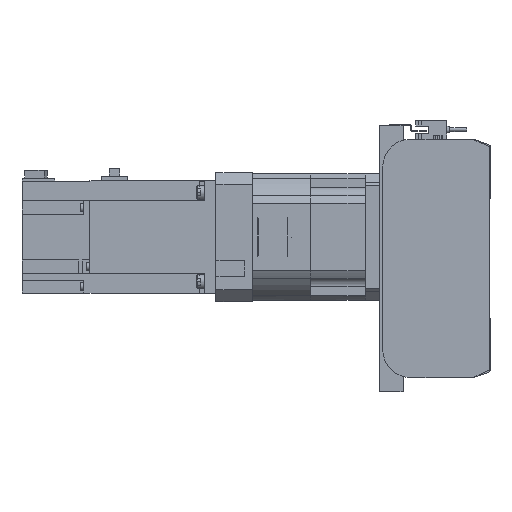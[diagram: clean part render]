
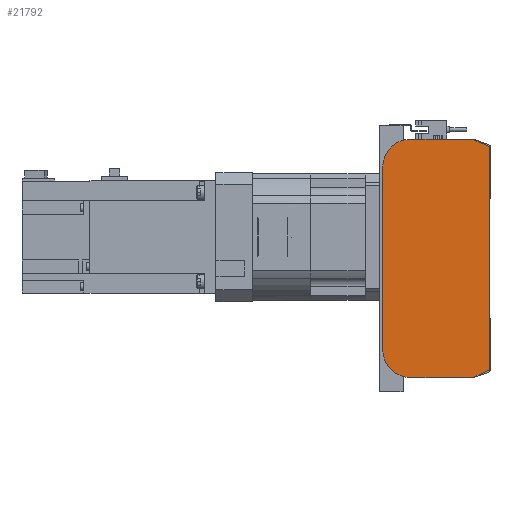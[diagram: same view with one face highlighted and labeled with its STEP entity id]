
A CAD part, left-side view. The second image highlights one B-rep face of the part: STEP entity #21792.
In plain terms, the highlighted planar face has unit normal (-1, 0, 0).
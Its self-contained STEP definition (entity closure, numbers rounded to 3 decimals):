
#1612=CIRCLE('',#23865,2.);
#1613=CIRCLE('',#23868,2.);
#1614=CIRCLE('',#23871,20.);
#1615=CIRCLE('',#23874,20.);
#6317=ORIENTED_EDGE('',*,*,#10289,.F.);
#6318=ORIENTED_EDGE('',*,*,#10367,.F.);
#6319=ORIENTED_EDGE('',*,*,#10365,.F.);
#6320=ORIENTED_EDGE('',*,*,#10363,.F.);
#6321=ORIENTED_EDGE('',*,*,#10091,.F.);
#6322=ORIENTED_EDGE('',*,*,#10362,.F.);
#6323=ORIENTED_EDGE('',*,*,#10360,.F.);
#6324=ORIENTED_EDGE('',*,*,#10358,.F.);
#6325=ORIENTED_EDGE('',*,*,#10356,.F.);
#6326=ORIENTED_EDGE('',*,*,#10354,.F.);
#10091=EDGE_CURVE('',#12459,#12460,#14323,.T.);
#10289=EDGE_CURVE('',#12531,#12532,#14437,.T.);
#10354=EDGE_CURVE('',#12532,#12573,#14482,.T.);
#10356=EDGE_CURVE('',#12573,#12574,#1612,.T.);
#10358=EDGE_CURVE('',#12574,#12575,#14485,.T.);
#10360=EDGE_CURVE('',#12575,#12576,#1613,.T.);
#10362=EDGE_CURVE('',#12576,#12459,#14488,.T.);
#10363=EDGE_CURVE('',#12460,#12577,#1614,.T.);
#10365=EDGE_CURVE('',#12577,#12578,#14490,.T.);
#10367=EDGE_CURVE('',#12578,#12531,#1615,.T.);
#12459=VERTEX_POINT('',#36503);
#12460=VERTEX_POINT('',#36505);
#12531=VERTEX_POINT('',#36826);
#12532=VERTEX_POINT('',#36828);
#12573=VERTEX_POINT('',#36958);
#12574=VERTEX_POINT('',#36962);
#12575=VERTEX_POINT('',#36966);
#12576=VERTEX_POINT('',#36970);
#12577=VERTEX_POINT('',#36976);
#12578=VERTEX_POINT('',#36980);
#14323=LINE('',#36504,#16190);
#14437=LINE('',#36827,#16304);
#14482=LINE('',#36957,#16349);
#14485=LINE('',#36965,#16352);
#14488=LINE('',#36973,#16355);
#14490=LINE('',#36979,#16357);
#16190=VECTOR('',#28953,1000.);
#16304=VECTOR('',#29341,1000.);
#16349=VECTOR('',#29474,1000.);
#16352=VECTOR('',#29483,1000.);
#16355=VECTOR('',#29492,1000.);
#16357=VECTOR('',#29500,1000.);
#17904=EDGE_LOOP('',(#6317,#6318,#6319,#6320,#6321,#6322,#6323,#6324,#6325,
#6326));
#19683=FACE_BOUND('',#17904,.T.);
#20678=PLANE('',#23876);
#21792=ADVANCED_FACE('',(#19683),#20678,.F.);
#23865=AXIS2_PLACEMENT_3D('',#36961,#29478,#29479);
#23868=AXIS2_PLACEMENT_3D('',#36969,#29487,#29488);
#23871=AXIS2_PLACEMENT_3D('',#36975,#29495,#29496);
#23874=AXIS2_PLACEMENT_3D('',#36983,#29504,#29505);
#23876=AXIS2_PLACEMENT_3D('',#36985,#29508,#29509);
#28953=DIRECTION('',(0.,1.,0.));
#29341=DIRECTION('',(0.,-1.,0.));
#29474=DIRECTION('',(0.,-0.913,-0.408));
#29478=DIRECTION('',(1.,0.,0.));
#29479=DIRECTION('',(0.,0.,-1.));
#29483=DIRECTION('',(0.,0.,-1.));
#29487=DIRECTION('',(1.,0.,0.));
#29488=DIRECTION('',(0.,0.,-1.));
#29492=DIRECTION('',(0.,0.913,-0.408));
#29495=DIRECTION('',(1.,0.,0.));
#29496=DIRECTION('',(0.,0.,-1.));
#29500=DIRECTION('',(0.,0.,1.));
#29504=DIRECTION('',(1.,0.,0.));
#29505=DIRECTION('',(0.,0.,-1.));
#29508=DIRECTION('',(1.,0.,0.));
#29509=DIRECTION('',(0.,0.,-1.));
#36503=CARTESIAN_POINT('',(0.,12.33,-85.));
#36504=CARTESIAN_POINT('',(0.,12.33,-85.));
#36505=CARTESIAN_POINT('',(0.,56.5,-85.));
#36826=CARTESIAN_POINT('',(0.,56.5,85.));
#36827=CARTESIAN_POINT('',(0.,56.5,85.));
#36828=CARTESIAN_POINT('',(0.,12.33,85.));
#36957=CARTESIAN_POINT('',(0.,12.33,85.));
#36958=CARTESIAN_POINT('',(0.,1.684,80.239));
#36961=CARTESIAN_POINT('',(0.,2.5,78.413));
#36962=CARTESIAN_POINT('',(0.,0.5,78.413));
#36965=CARTESIAN_POINT('',(0.,0.5,78.413));
#36966=CARTESIAN_POINT('',(0.,0.5,-78.413));
#36969=CARTESIAN_POINT('',(0.,2.5,-78.413));
#36970=CARTESIAN_POINT('',(0.,1.684,-80.239));
#36973=CARTESIAN_POINT('',(0.,1.684,-80.239));
#36975=CARTESIAN_POINT('',(0.,56.5,-65.));
#36976=CARTESIAN_POINT('',(0.,76.5,-65.));
#36979=CARTESIAN_POINT('',(0.,76.5,-65.));
#36980=CARTESIAN_POINT('',(0.,76.5,65.));
#36983=CARTESIAN_POINT('',(0.,56.5,65.));
#36985=CARTESIAN_POINT('',(0.,2.5,78.413));
